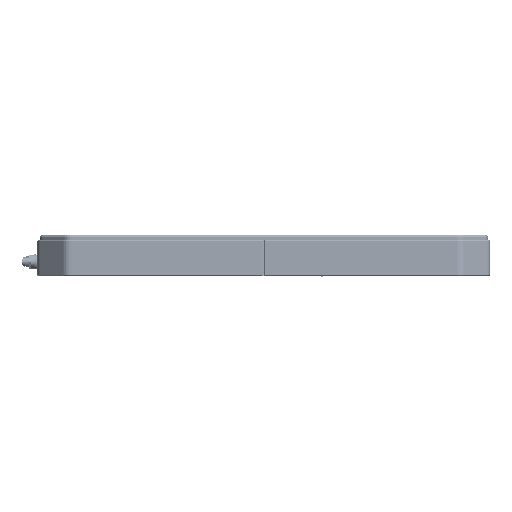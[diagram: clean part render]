
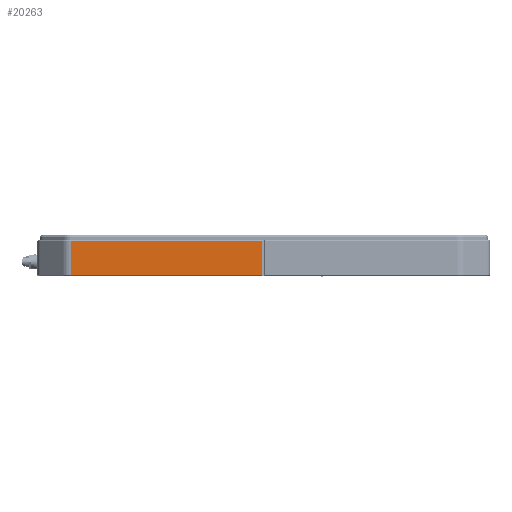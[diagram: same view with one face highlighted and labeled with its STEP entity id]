
A CAD part, front view. The second image highlights one B-rep face of the part: STEP entity #20263.
In plain terms, the highlighted planar face has unit normal (0, -1, 0).
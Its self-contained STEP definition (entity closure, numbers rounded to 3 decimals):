
#7745=DIRECTION('',(0.,0.,1.));
#7746=VECTOR('',#7745,48.);
#7747=CARTESIAN_POINT('',(313.,0.,1.));
#7748=LINE('',#7747,#7746);
#7752=DIRECTION('',(-1.,0.,0.));
#7753=VECTOR('',#7752,266.787);
#7754=CARTESIAN_POINT('',(313.,0.,1.));
#7755=LINE('',#7754,#7753);
#7759=DIRECTION('',(0.,0.,-1.));
#7760=VECTOR('',#7759,48.);
#7761=CARTESIAN_POINT('',(46.213,0.,49.));
#7762=LINE('',#7761,#7760);
#7766=DIRECTION('',(1.,0.,0.));
#7767=VECTOR('',#7766,266.787);
#7768=CARTESIAN_POINT('',(46.213,0.,49.));
#7769=LINE('',#7768,#7767);
#13463=CARTESIAN_POINT('',(46.213,0.,49.));
#13465=VERTEX_POINT('',#13463);
#13540=CARTESIAN_POINT('',(46.213,0.,1.));
#13541=VERTEX_POINT('',#13540);
#13678=CARTESIAN_POINT('',(313.,0.,1.));
#13679=CARTESIAN_POINT('',(313.,0.,49.));
#13680=VERTEX_POINT('',#13678);
#13681=VERTEX_POINT('',#13679);
#20250=CARTESIAN_POINT('',(0.,0.,0.));
#20251=DIRECTION('',(0.,-1.,0.));
#20252=DIRECTION('',(1.,0.,0.));
#20253=AXIS2_PLACEMENT_3D('',#20250,#20251,#20252);
#20254=PLANE('',#20253);
#20255=ORIENTED_EDGE('',*,*,#20240,.F.);
#20256=ORIENTED_EDGE('',*,*,#20214,.T.);
#20258=ORIENTED_EDGE('',*,*,#20257,.F.);
#20260=ORIENTED_EDGE('',*,*,#20259,.T.);
#20261=EDGE_LOOP('',(#20255,#20256,#20258,#20260));
#20262=FACE_OUTER_BOUND('',#20261,.F.);
#20214=EDGE_CURVE('',#13680,#13541,#7755,.T.);
#20240=EDGE_CURVE('',#13680,#13681,#7748,.T.);
#20257=EDGE_CURVE('',#13465,#13541,#7762,.T.);
#20259=EDGE_CURVE('',#13465,#13681,#7769,.T.);
#20263=ADVANCED_FACE('',(#20262),#20254,.T.);
